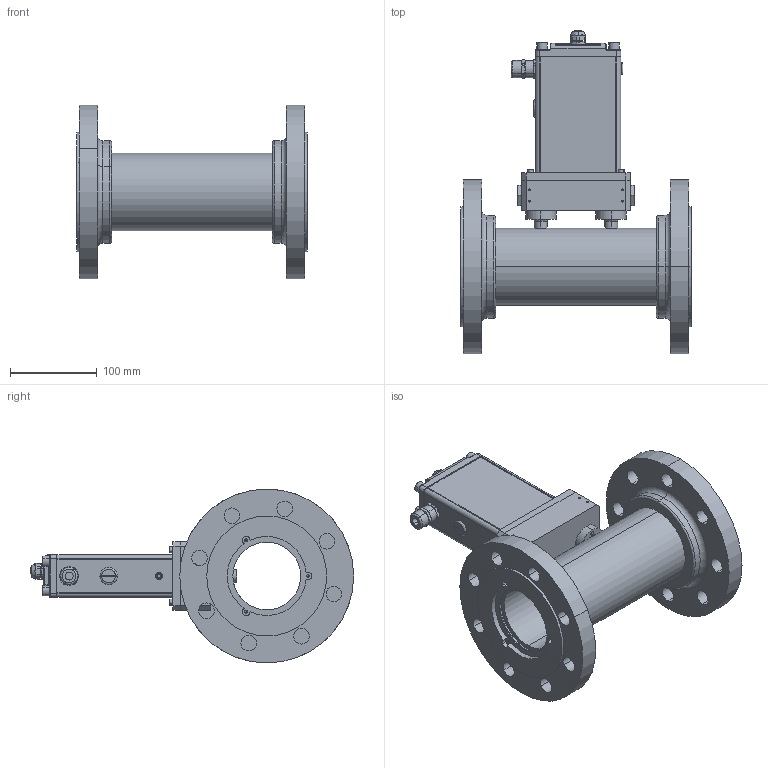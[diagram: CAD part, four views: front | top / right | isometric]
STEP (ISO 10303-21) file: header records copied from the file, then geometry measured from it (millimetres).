
FILE_DESCRIPTION (( 'STEP AP203' ), '1' );
FILE_NAME ('SLAMF64-R-3R-0-A-REVA.STEP', '2022-03-03T16:29:51', ( '' ), ( '' ), 'SwSTEP 2.0', 'SolidWorks 2020', '' );
FILE_SCHEMA (( 'CONFIG_CONTROL_DESIGN' ));
Length unit declared in the file: inch
Products named in the file (1): SLAMF64-R-3R-0-A-REVA
Bounding box: 265 x 371.96 x 200 mm (x, y, z)
Volume: 2299534 mm3; surface area: 504843.7 mm2
Topology: 31 solids, 31 shells, 1112 faces, 2650 edges, 1668 vertices
Faces by surface type: cylinder 482, plane 360, cone 200, bspline 62, torus 8
Entity records: 34644 total; most frequent: CARTESIAN_POINT 8243, DIRECTION 5792, ORIENTED_EDGE 5240, EDGE_CURVE 2620, AXIS2_PLACEMENT_3D 2291, VERTEX_POINT 1668, EDGE_LOOP 1342, CIRCLE 1240
